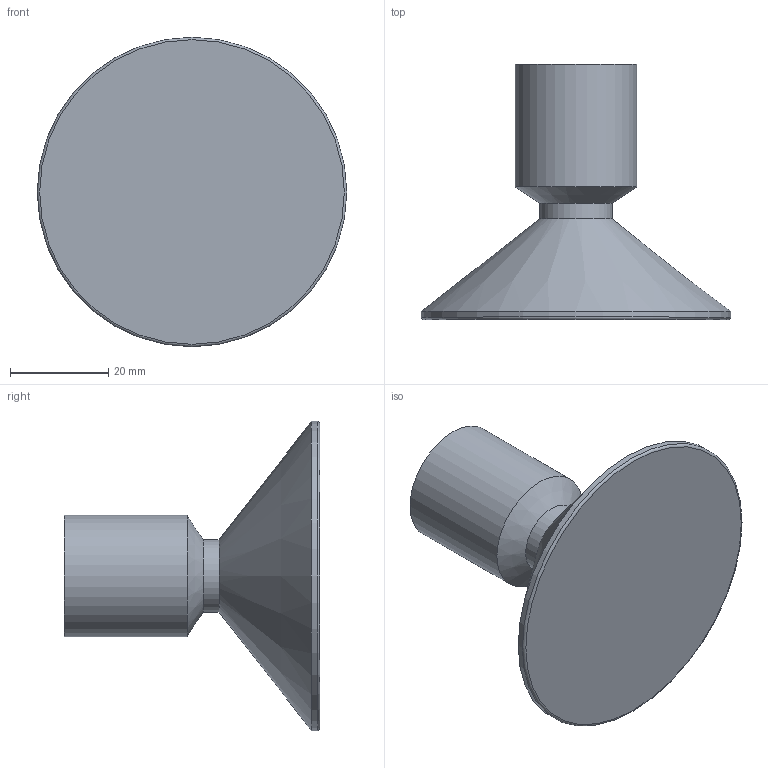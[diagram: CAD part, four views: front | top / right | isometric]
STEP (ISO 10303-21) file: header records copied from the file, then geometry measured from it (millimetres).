
FILE_DESCRIPTION((''),'2;1');
FILE_NAME('W:\Technik\Konstruktion\CAD-Daten\Kundenmodelle\104.063.041_Kd.stp','2010-10-11T11:09:54',('WMiller'),(''),'Autodesk Inventor 2009','Autodesk Inventor 2009','');
FILE_SCHEMA(('AUTOMOTIVE_DESIGN { 1 0 10303 214 1 1 1 1 }'));
Length unit declared in the file: millimetre
Products named in the file (1): 104.063
Bounding box: 63 x 52 x 63 mm (x, y, z)
Volume: 43994.8 mm3; surface area: 10084.1 mm2
Topology: 1 solids, 1 shells, 8 faces, 13 edges, 7 vertices
Faces by surface type: cylinder 3, plane 2, cone 2, torus 1
Full cylindrical faces by diameter (mm): 14.7 x1, 24.7 x1, 63 x1
Entity records: 180 total; most frequent: DIRECTION 32, CARTESIAN_POINT 23, AXIS2_PLACEMENT_3D 16, ORIENTED_EDGE 14, EDGE_LOOP 14, FACE_OUTER_BOUND 8, ADVANCED_FACE 8, VERTEX_POINT 7
